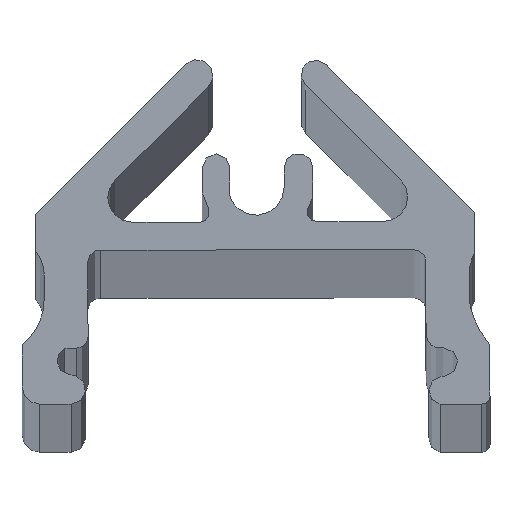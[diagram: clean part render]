
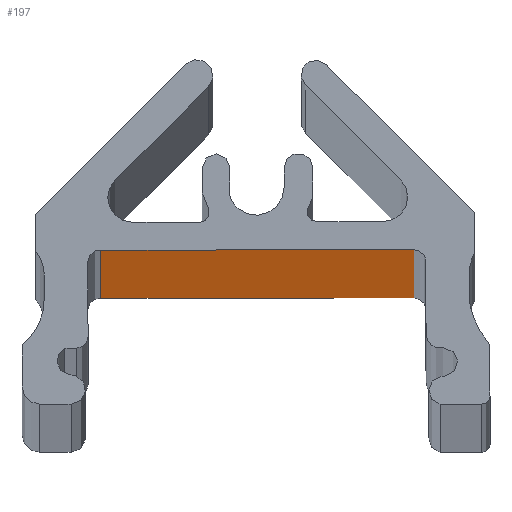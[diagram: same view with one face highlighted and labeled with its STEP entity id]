
A CAD part, top view. The second image highlights one B-rep face of the part: STEP entity #197.
In plain terms, the highlighted planar face has unit normal (0.001, -1, 0).
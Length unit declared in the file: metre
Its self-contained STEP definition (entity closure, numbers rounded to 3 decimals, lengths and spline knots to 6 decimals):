
#197=ADVANCED_FACE('5:9479',(#389),#390,.T.);
#389=FACE_OUTER_BOUND('',#575,.T.);
#390=PLANE('',#576);
#575=EDGE_LOOP('',(#1063,#1064,#1065,#1066));
#576=AXIS2_PLACEMENT_3D('',#1067,#1068,#1069);
#1063=ORIENTED_EDGE('',*,*,#1344,.T.);
#1064=ORIENTED_EDGE('',*,*,#1151,.T.);
#1065=ORIENTED_EDGE('',*,*,#1347,.F.);
#1066=ORIENTED_EDGE('',*,*,#1348,.T.);
#1067=CARTESIAN_POINT('',(0.000556,0.000017,0.0));
#1068=DIRECTION('',(0.001,-1.,0.0));
#1069=DIRECTION('',(1.,0.001,0.0));
#1151=EDGE_CURVE('5:9944',#1377,#1375,#1378,.F.);
#1344=EDGE_CURVE('5:9938',#1663,#1377,#1664,.T.);
#1347=EDGE_CURVE('5:9947',#1667,#1375,#1668,.T.);
#1348=EDGE_CURVE('5:9950',#1667,#1663,#1669,.T.);
#1375=VERTEX_POINT('',#1701);
#1377=VERTEX_POINT('',#1703);
#1378=LINE('',#1704,#1705);
#1663=VERTEX_POINT('',#2090);
#1664=LINE('',#2091,#2092);
#1667=VERTEX_POINT('',#2095);
#1668=LINE('',#2096,#2097);
#1669=LINE('',#2098,#2099);
#1701=CARTESIAN_POINT('',(-0.005132,0.000013,1.00007));
#1703=CARTESIAN_POINT('',(0.006243,0.000022,1.00007));
#1704=CARTESIAN_POINT('',(0.000278,0.000017,1.00007));
#1705=VECTOR('',#2124,1.0);
#2090=CARTESIAN_POINT('',(0.006243,0.000022,0.0));
#2091=CARTESIAN_POINT('',(0.006243,0.000022,0.0));
#2092=VECTOR('',#2354,1.0);
#2095=CARTESIAN_POINT('',(-0.005132,0.000013,0.0));
#2096=CARTESIAN_POINT('',(-0.005132,0.000013,0.0));
#2097=VECTOR('',#2358,1.0);
#2098=CARTESIAN_POINT('',(-0.005132,0.000013,0.0));
#2099=VECTOR('',#2359,1.0);
#2124=DIRECTION('',(1.,0.001,-0.0));
#2354=DIRECTION('',(0.0,0.0,1.0));
#2358=DIRECTION('',(0.0,0.0,1.0));
#2359=DIRECTION('',(1.,0.001,0.0));
